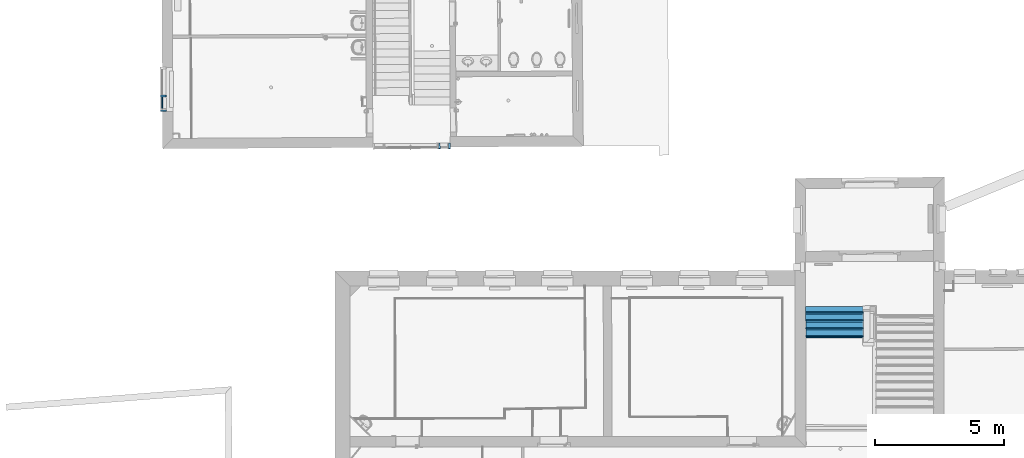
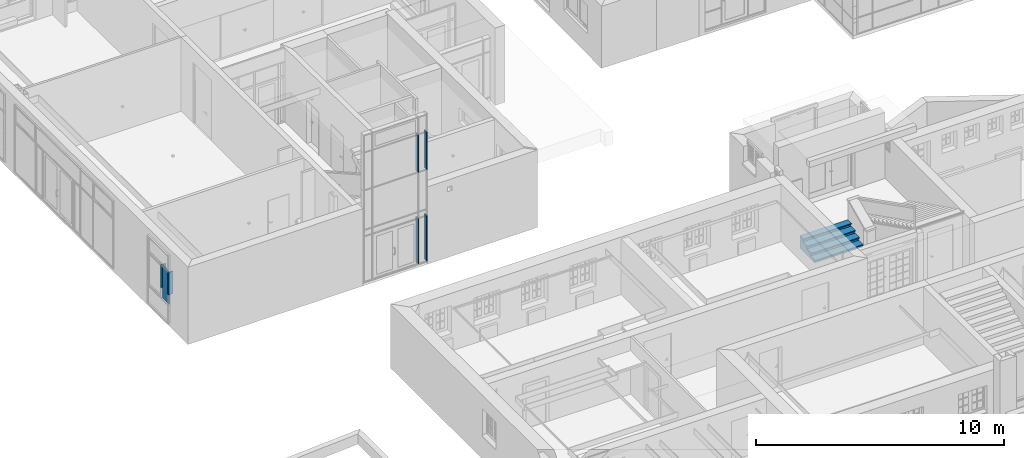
# One storey, part 118 of 196: 18 building element parts, 3 elements without a shape of their own.
"""IFC2X3 building model written with IfcOpenShell, lengths in metres."""

from ifc_helpers import new_model, entity, si_unit, converted_unit, derived_unit, money_unit, direction, frame, origin_with_axes, place, context, subcontext, project, spatial, faceted_brep, material, type_object, element, aggregate, save


model = new_model("IFC2X3")

# Units and contexts
model_context = context("Model", 3, precision=1e-05, world=origin_with_axes(), true_north=direction((0.0, 1.0)))
body_context = subcontext(model_context, "Body", "Model", "MODEL_VIEW")
ifc_project = project(units=[si_unit("LENGTHUNIT", "METRE"), si_unit("AREAUNIT", "SQUARE_METRE"), si_unit("VOLUMEUNIT", "CUBIC_METRE"), converted_unit("PLANEANGLEUNIT", "DEGREE", entity("IfcPlaneAngleMeasure", 0.0174532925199), si_unit("PLANEANGLEUNIT", "RADIAN"), dimensions=[0, 0, 0, 0, 0, 0, 0]), money_unit("EUR"), converted_unit("TIMEUNIT", "Year", entity("IfcTimeMeasure", 31556926.0), si_unit("TIMEUNIT", "SECOND"), dimensions=[0, 0, 1, 0, 0, 0, 0]), si_unit("MASSUNIT", "GRAM", prefix="KILO"), si_unit("THERMODYNAMICTEMPERATUREUNIT", "DEGREE_CELSIUS"), si_unit("LUMINOUSINTENSITYUNIT", "LUMEN"), si_unit("ENERGYUNIT", "JOULE", prefix="MEGA"), derived_unit("THERMALCONDUCTANCEUNIT", [(si_unit("POWERUNIT", "WATT"), 1), (si_unit("LENGTHUNIT", "METRE"), -1), (si_unit("THERMODYNAMICTEMPERATUREUNIT", "KELVIN"), -1)]), derived_unit("SPECIFICHEATCAPACITYUNIT", [(si_unit("ENERGYUNIT", "JOULE"), 1), (si_unit("MASSUNIT", "GRAM", prefix="KILO"), -1), (si_unit("THERMODYNAMICTEMPERATUREUNIT", "KELVIN"), -1)]), derived_unit("MASSDENSITYUNIT", [(si_unit("MASSUNIT", "GRAM", prefix="KILO"), 1), (si_unit("VOLUMEUNIT", "CUBIC_METRE"), -1)])], contexts=[model_context])

# Site, building, storey
site_placement = place(None, origin_with_axes())
site = spatial("IfcSite", under=ifc_project, at=site_placement, Name="Gelände", CompositionType="ELEMENT")
building_placement = place(site_placement, origin_with_axes())
building = spatial("IfcBuilding", under=site, at=building_placement, Name="Gebäude", CompositionType="ELEMENT")
storey_placement = place(building_placement, frame((0.0, 0.0, -3.0), z_axis=(0.0, 0.0, 1.0), x_axis=(1.0, 0.0, 0.0)))
storey = spatial("IfcBuildingStorey", under=building, at=storey_placement, Name="KELLERGESCHOSS", CompositionType="ELEMENT", Elevation=-3.0)

# Proxy, building element parts
building_element_proxy_type = type_object("IfcBuildingElementProxyType", Name="Fassadentyp", PredefinedType="NOTDEFINED")
proxy_1_placement = place(storey_placement, frame((-34.829315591, 32.8962799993, 0.42102562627), z_axis=(0.0, 0.0, 1.0), x_axis=(1.0, 0.0, 0.0)))
proxy_1 = element("IfcBuildingElementProxy", 1, at=proxy_1_placement, inside=storey, type_object=building_element_proxy_type, Name="Fassade-002")
ifc_material_1 = material(Name="45_Glas, Normalglas")
building_element_part_1_placement = place(proxy_1_placement, origin_with_axes())
building_element_part_1 = element("IfcBuildingElementPart", 2, at=building_element_part_1_placement, material=ifc_material_1, Name="45_Glas, Normalglas", context=body_context, shape_type="Brep", body=[
    faceted_brep([(0.0232721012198, -0.570241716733, 2.50999997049), (0.0228500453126, -0.496681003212, 2.50999997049), (-0.0171492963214, -0.496910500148, 2.50999997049), (-0.0167272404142, -0.570471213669, 2.50999997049), (0.0232721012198, -0.570241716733, 1.4199999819), (0.0232721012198, -0.570241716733, 0.92464355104), (0.0228500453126, -0.496681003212, 0.92464355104), (0.0201039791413, -0.0180652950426, 0.92464355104), (0.0201039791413, -0.0180652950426, 1.4199999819), (0.0201039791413, -0.0180652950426, 2.50999997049), (-0.0198953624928, -0.0182947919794, 2.50999997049), (-0.0198953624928, -0.0182947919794, 1.4199999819), (-0.0198953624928, -0.0182947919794, 0.92464355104), (-0.0171492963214, -0.496910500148, 0.92464355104), (-0.0167272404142, -0.570471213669, 0.92464355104), (-0.0167272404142, -0.570471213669, 1.4199999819)], [[[0, 1, 2, 3]], [[0, 4, 5, 6, 7, 8, 9, 1]], [[1, 9, 10, 2]], [[3, 2, 10, 11, 12, 13, 14, 15]], [[4, 0, 3, 15]], [[5, 4, 15, 14]], [[6, 5, 14, 13]], [[7, 6, 13, 12]], [[8, 7, 12, 11]], [[9, 8, 11, 10]]]),
])
ifc_material_2 = material(Name="53_Metall, Aluminium")
building_element_part_2_placement = place(proxy_1_placement, origin_with_axes())
building_element_part_2 = element("IfcBuildingElementPart", 3, at=building_element_part_2_placement, material=ifc_material_2, Name="53_Metall, Aluminium", context=body_context, shape_type="Brep", body=[
    faceted_brep([(0.0132722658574, -0.570299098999, 2.5199999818), (-0.0067274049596, -0.570413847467, 2.5199999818), (-0.0068134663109, -0.555414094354, 2.5199999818), (-0.0668124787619, -0.55575833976, 2.5199999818), (-0.0665256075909, -0.605757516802, 2.5199999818), (0.153470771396, -0.60449528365, 2.5199999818), (0.153183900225, -0.554496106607, 2.5199999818), (0.0131862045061, -0.555299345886, 2.5199999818), (0.0132722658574, -0.570299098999, 1.4199999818), (-0.0067274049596, -0.570413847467, 1.4199999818), (-0.0068134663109, -0.555414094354, 1.4199999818), (-0.0668124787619, -0.55575833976, 1.4199999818), (-0.0665256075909, -0.605757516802, 1.4199999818), (0.153470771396, -0.60449528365, 1.4199999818), (0.153183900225, -0.554496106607, 1.4199999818), (0.0131862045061, -0.555299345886, 1.4199999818)], [[[0, 1, 2, 3, 4, 5, 6, 7]], [[1, 0, 8, 9]], [[10, 2, 1, 9]], [[2, 10, 11, 3]], [[12, 4, 3, 11]], [[13, 5, 4, 12]], [[14, 6, 5, 13]], [[15, 7, 6, 14]], [[0, 7, 15, 8]], [[8, 15, 14, 13, 12, 11, 10, 9]]]),
])
building_element_part_3_placement = place(proxy_1_placement, origin_with_axes())
building_element_part_3 = element("IfcBuildingElementPart", 4, at=building_element_part_3_placement, material=ifc_material_2, Name="53_Metall, Aluminium", context=body_context, shape_type="Brep", body=[
    faceted_brep([(0.0101041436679, -0.0181226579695, 2.5449999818), (0.0101902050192, -0.0331224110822, 2.5449999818), (0.150187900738, -0.0323191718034, 2.5449999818), (0.149901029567, 0.0176800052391, 2.5449999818), (0.00990333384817, 0.0168767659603, 2.5449999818), (0.00998939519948, 0.00187701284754, 2.5449999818), (-0.0100102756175, 0.00176226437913, 2.5449999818), (-0.0100963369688, 0.0167620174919, 2.5449999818), (-0.0700953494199, 0.0164177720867, 2.5449999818), (-0.0698084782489, -0.0335814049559, 2.5449999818), (-0.00980946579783, -0.0332371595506, 2.5449999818), (-0.00989552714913, -0.0182374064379, 2.5449999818), (0.0101041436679, -0.0181226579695, 1.4199999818), (0.0101902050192, -0.0331224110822, 1.4199999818), (0.150187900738, -0.0323191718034, 1.4199999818), (0.149901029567, 0.0176800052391, 1.4199999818), (0.00990333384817, 0.0168767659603, 1.4199999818), (0.00998939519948, 0.00187701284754, 1.4199999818), (-0.0100102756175, 0.00176226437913, 1.4199999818), (-0.0100963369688, 0.0167620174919, 1.4199999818), (-0.0700953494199, 0.0164177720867, 1.4199999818), (-0.0698084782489, -0.0335814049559, 1.4199999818), (-0.00980946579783, -0.0332371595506, 1.4199999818), (-0.00989552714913, -0.0182374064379, 1.4199999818)], [[[0, 1, 2, 3, 4, 5, 6, 7, 8, 9, 10, 11]], [[1, 0, 12, 13]], [[1, 13, 14, 2]], [[3, 2, 14, 15]], [[4, 3, 15, 16]], [[4, 16, 17, 5]], [[5, 17, 18, 6]], [[7, 6, 18, 19]], [[19, 20, 8, 7]], [[9, 8, 20, 21]], [[22, 10, 9, 21]], [[11, 10, 22, 23]], [[0, 11, 23, 12]], [[23, 22, 21, 20, 19, 18, 17, 16, 15, 14, 13, 12]]]),
])
aggregate(proxy_1, [building_element_part_1, building_element_part_2, building_element_part_3])

proxy_2_placement = place(storey_placement, frame((-23.8310150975, 30.9074049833, 0.410855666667), z_axis=(0.0, 0.0, 1.0), x_axis=(1.0, 0.0, 0.0)))
proxy_2 = element("IfcBuildingElementProxy", 5, at=proxy_2_placement, inside=storey, type_object=building_element_proxy_type, Name="Fassade-002")
building_element_part_4_placement = place(proxy_2_placement, origin_with_axes())
building_element_part_4 = element("IfcBuildingElementPart", 6, at=building_element_part_4_placement, material=ifc_material_2, Name="53_Metall, Aluminium", context=body_context, shape_type="Brep", body=[
    faceted_brep([(0.14734139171, 0.010882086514, 2.27812768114), (0.147461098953, -0.0091175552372, 2.27812768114), (0.132461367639, -0.00920733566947, 2.27812768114), (0.132760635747, -0.0592064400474, 2.27812768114), (0.182759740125, -0.0589071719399, 2.27812768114), (0.181502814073, 0.151089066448, 2.27812768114), (0.131503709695, 0.15078979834, 2.27812768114), (0.132341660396, 0.0107923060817, 2.27812768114), (0.14734139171, 0.010882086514, 0.035), (0.147461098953, -0.0091175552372, 0.035), (0.132461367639, -0.00920733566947, 0.05), (0.132760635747, -0.0592064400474, 0.05), (0.182759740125, -0.0589071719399, 0.0), (0.181502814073, 0.151089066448, 0.0), (0.131503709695, 0.15078979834, 0.05), (0.132341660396, 0.0107923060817, 0.05)], [[[0, 1, 2, 3, 4, 5, 6, 7]], [[1, 0, 8, 9]], [[10, 2, 1, 9]], [[2, 10, 11, 3]], [[4, 3, 11, 12]], [[5, 4, 12, 13]], [[6, 5, 13, 14]], [[15, 7, 6, 14]], [[0, 7, 15, 8]], [[8, 15, 14, 13, 12, 11, 10, 9]]]),
])
building_element_part_5_placement = place(proxy_2_placement, origin_with_axes())
building_element_part_5 = element("IfcBuildingElementPart", 7, at=building_element_part_5_placement, material=ifc_material_2, Name="53_Metall, Aluminium", context=body_context, shape_type="Brep", body=[
    faceted_brep([(-0.230786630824, 0.00861881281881, 6.40594888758), (-0.21578689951, 0.00870859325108, 6.40594888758), (-0.216624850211, 0.148706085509, 6.40594888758), (-0.266623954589, 0.148406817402, 6.40594888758), (-0.265786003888, 0.00840932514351, 6.40594888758), (-0.250786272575, 0.00849910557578, 6.40594888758), (-0.250666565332, -0.0115005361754, 6.40594888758), (-0.265666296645, -0.0115903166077, 6.40594888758), (-0.265367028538, -0.0615894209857, 6.40594888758), (-0.21536792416, -0.0612901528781, 6.40594888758), (-0.215667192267, -0.0112910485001, 6.40594888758), (-0.23066692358, -0.0113808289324, 6.40594888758), (-0.230786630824, 0.00861881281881, 4.54226284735), (-0.21578689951, 0.00870859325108, 4.54226284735), (-0.216624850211, 0.148706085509, 4.54226284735), (-0.266623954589, 0.148406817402, 4.54226284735), (-0.265786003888, 0.00840932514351, 4.54226284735), (-0.250786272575, 0.00849910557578, 4.54226284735), (-0.250666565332, -0.0115005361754, 4.54226284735), (-0.265666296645, -0.0115903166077, 4.54226284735), (-0.265367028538, -0.0615894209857, 4.54226284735), (-0.21536792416, -0.0612901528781, 4.54226284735), (-0.215667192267, -0.0112910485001, 4.54226284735), (-0.23066692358, -0.0113808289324, 4.54226284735)], [[[0, 1, 2, 3, 4, 5, 6, 7, 8, 9, 10, 11]], [[1, 0, 12, 13]], [[1, 13, 14, 2]], [[3, 2, 14, 15]], [[4, 3, 15, 16]], [[4, 16, 17, 5]], [[5, 17, 18, 6]], [[7, 6, 18, 19]], [[19, 20, 8, 7]], [[9, 8, 20, 21]], [[22, 10, 9, 21]], [[11, 10, 22, 23]], [[0, 11, 23, 12]], [[23, 22, 21, 20, 19, 18, 17, 16, 15, 14, 13, 12]]]),
])
building_element_part_6_placement = place(proxy_2_placement, origin_with_axes())
building_element_part_6 = element("IfcBuildingElementPart", 8, at=building_element_part_6_placement, material=ifc_material_2, Name="53_Metall, Aluminium", context=body_context, shape_type="Brep", body=[
    faceted_brep([(0.147341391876, 0.010882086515, 6.40594888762), (0.147461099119, -0.00911755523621, 6.40594888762), (0.132461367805, -0.00920733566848, 6.40594888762), (0.132760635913, -0.0592064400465, 6.40594888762), (0.182759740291, -0.0589071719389, 6.40594888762), (0.181502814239, 0.151089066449, 6.40594888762), (0.131503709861, 0.150789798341, 6.40594888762), (0.132341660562, 0.0107923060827, 6.40594888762), (0.147341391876, 0.010882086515, 4.54226284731), (0.147461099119, -0.00911755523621, 4.54226284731), (0.132461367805, -0.00920733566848, 4.54226284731), (0.132760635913, -0.0592064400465, 4.54226284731), (0.182759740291, -0.0589071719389, 4.54226284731), (0.181502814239, 0.151089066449, 4.54226284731), (0.131503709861, 0.150789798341, 4.54226284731), (0.132341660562, 0.0107923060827, 4.54226284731)], [[[0, 1, 2, 3, 4, 5, 6, 7]], [[1, 0, 8, 9]], [[10, 2, 1, 9]], [[2, 10, 11, 3]], [[12, 4, 3, 11]], [[13, 5, 4, 12]], [[14, 6, 5, 13]], [[15, 7, 6, 14]], [[0, 7, 15, 8]], [[8, 15, 14, 13, 12, 11, 10, 9]]]),
])
building_element_part_7_placement = place(proxy_2_placement, origin_with_axes())
building_element_part_7 = element("IfcBuildingElementPart", 9, at=building_element_part_7_placement, material=ifc_material_2, Name="53_Metall, Aluminium", context=body_context, shape_type="Brep", body=[
    faceted_brep([(-0.230786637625, 0.0086188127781, 2.27812768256), (-0.215786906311, 0.00870859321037, 2.27812768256), (-0.216624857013, 0.148706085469, 2.27812768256), (-0.266623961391, 0.148406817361, 2.27812768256), (-0.265786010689, 0.0084093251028, 2.27812768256), (-0.250786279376, 0.00849910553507, 2.27812768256), (-0.250666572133, -0.0115005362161, 2.27812768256), (-0.265666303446, -0.0115903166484, 2.27812768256), (-0.265367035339, -0.0615894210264, 2.27812768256), (-0.215367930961, -0.0612901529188, 2.27812768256), (-0.215667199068, -0.0112910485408, 2.27812768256), (-0.230666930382, -0.0113808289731, 2.27812768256), (-0.230786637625, 0.0086188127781, 0.05), (-0.215786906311, 0.00870859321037, 0.05), (-0.216624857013, 0.148706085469, 0.05), (-0.266623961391, 0.148406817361, 0.05), (-0.265786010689, 0.0084093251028, 0.05), (-0.250786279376, 0.00849910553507, 0.05), (-0.250666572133, -0.0115005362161, 0.05), (-0.265666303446, -0.0115903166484, 0.05), (-0.265367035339, -0.0615894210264, 0.05), (-0.215367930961, -0.0612901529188, 0.05), (-0.215667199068, -0.0112910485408, 0.05), (-0.230666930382, -0.0113808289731, 0.05)], [[[0, 1, 2, 3, 4, 5, 6, 7, 8, 9, 10, 11]], [[1, 0, 12, 13]], [[1, 13, 14, 2]], [[2, 14, 15, 3]], [[4, 3, 15, 16]], [[4, 16, 17, 5]], [[5, 17, 18, 6]], [[7, 6, 18, 19]], [[19, 20, 8, 7]], [[8, 20, 21, 9]], [[22, 10, 9, 21]], [[11, 10, 22, 23]], [[0, 11, 23, 12]], [[23, 22, 21, 20, 19, 18, 17, 16, 15, 14, 13, 12]]]),
])
building_element_part_8_placement = place(proxy_2_placement, origin_with_axes())
building_element_part_8 = element("IfcBuildingElementPart", 10, at=building_element_part_8_placement, material=ifc_material_2, Name="53_Metall, Aluminium", context=body_context, shape_type="Brep", body=[
    faceted_brep([(0.167197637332, 0.0110009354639, 6.40594888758), (0.182197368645, 0.0110907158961, 6.40594888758), (0.181359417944, 0.151088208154, 6.40594888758), (0.131360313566, 0.150788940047, 6.40594888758), (0.132198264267, 0.0107914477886, 6.40594888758), (0.147197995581, 0.0108812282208, 6.40594888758), (0.147317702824, -0.00911841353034, 6.40594888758), (0.13231797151, -0.00920819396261, 6.40594888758), (0.132617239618, -0.0592072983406, 6.40594888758), (0.182616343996, -0.058908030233, 6.40594888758), (0.182317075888, -0.00890892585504, 6.40594888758), (0.167317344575, -0.00899870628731, 6.40594888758), (0.167197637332, 0.0110009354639, 4.54226284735), (0.182197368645, 0.0110907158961, 4.54226284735), (0.181359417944, 0.151088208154, 4.54226284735), (0.131360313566, 0.150788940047, 4.54226284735), (0.132198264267, 0.0107914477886, 4.54226284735), (0.147197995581, 0.0108812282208, 4.54226284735), (0.147317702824, -0.00911841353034, 4.54226284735), (0.13231797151, -0.00920819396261, 4.54226284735), (0.132617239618, -0.0592072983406, 4.54226284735), (0.182616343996, -0.058908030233, 4.54226284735), (0.182317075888, -0.00890892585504, 4.54226284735), (0.167317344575, -0.00899870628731, 4.54226284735)], [[[0, 1, 2, 3, 4, 5, 6, 7, 8, 9, 10, 11]], [[1, 0, 12, 13]], [[1, 13, 14, 2]], [[3, 2, 14, 15]], [[4, 3, 15, 16]], [[4, 16, 17, 5]], [[5, 17, 18, 6]], [[7, 6, 18, 19]], [[19, 20, 8, 7]], [[9, 8, 20, 21]], [[22, 10, 9, 21]], [[11, 10, 22, 23]], [[0, 11, 23, 12]], [[23, 22, 21, 20, 19, 18, 17, 16, 15, 14, 13, 12]]]),
])
building_element_part_9_placement = place(proxy_2_placement, origin_with_axes())
building_element_part_9 = element("IfcBuildingElementPart", 11, at=building_element_part_9_placement, material=ifc_material_2, Name="53_Metall, Aluminium", context=body_context, shape_type="Brep", body=[
    faceted_brep([(0.16719765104, 0.0110009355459, 2.27812768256), (0.182197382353, 0.0110907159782, 2.27812768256), (0.181359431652, 0.151088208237, 2.27812768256), (0.131360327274, 0.150788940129, 2.27812768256), (0.132198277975, 0.0107914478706, 2.27812768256), (0.147198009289, 0.0108812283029, 2.27812768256), (0.147317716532, -0.00911841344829, 2.27812768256), (0.132317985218, -0.00920819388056, 2.27812768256), (0.132617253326, -0.0592072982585, 2.27812768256), (0.182616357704, -0.058908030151, 2.27812768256), (0.182317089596, -0.00890892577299, 2.27812768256), (0.167317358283, -0.00899870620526, 2.27812768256), (0.16719765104, 0.0110009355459, 0.05), (0.182197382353, 0.0110907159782, 0.05), (0.181359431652, 0.151088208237, 0.05), (0.131360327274, 0.150788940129, 0.05), (0.132198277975, 0.0107914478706, 0.05), (0.147198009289, 0.0108812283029, 0.05), (0.147317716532, -0.00911841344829, 0.05), (0.132317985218, -0.00920819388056, 0.05), (0.132617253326, -0.0592072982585, 0.05), (0.182616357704, -0.058908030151, 0.05), (0.182317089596, -0.00890892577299, 0.05), (0.167317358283, -0.00899870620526, 0.05)], [[[0, 1, 2, 3, 4, 5, 6, 7, 8, 9, 10, 11]], [[1, 0, 12, 13]], [[1, 13, 14, 2]], [[2, 14, 15, 3]], [[4, 3, 15, 16]], [[4, 16, 17, 5]], [[5, 17, 18, 6]], [[7, 6, 18, 19]], [[19, 20, 8, 7]], [[8, 20, 21, 9]], [[22, 10, 9, 21]], [[11, 10, 22, 23]], [[0, 11, 23, 12]], [[23, 22, 21, 20, 19, 18, 17, 16, 15, 14, 13, 12]]]),
])
aggregate(proxy_2, [building_element_part_4, building_element_part_5, building_element_part_6, building_element_part_7, building_element_part_8, building_element_part_9])

# Stair, building element parts
stair_placement = place(storey_placement, frame((-9.84187803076, 23.4833679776, -0.0458137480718), z_axis=(0.0, 0.0, 1.0), x_axis=(0.999999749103, -0.000708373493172, 0.0)))
stair = element("IfcStair", 12, at=stair_placement, inside=storey, Name="Treppe-003", ShapeType="NOTDEFINED")
ifc_material_3 = material(Name="05_ALLGEMEIN - TRAGENDE BAUTEILE")
building_element_part_10_placement = place(stair_placement, origin_with_axes())
building_element_part_10 = element("IfcBuildingElementPart", 13, at=building_element_part_10_placement, material=ifc_material_3, Name="05_ALLGEMEIN - TRAGENDE BAUTEILE", context=body_context, shape_type="Brep", body=[
    faceted_brep([(2.23931757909, 0.0919467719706, 0.00581374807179), (2.23931757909, 0.0919467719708, 0.121453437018), (-7.43042358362e-05, 0.0900999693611, 0.121453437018), (-7.22929839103e-05, 0.0900999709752, 0.00581374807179), (2.23684288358, 0.401336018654, 0.121453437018), (2.23021214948, 1.23031793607, 0.00581374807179), (2.23021214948, 1.23031793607, 0.605813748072), (2.23189349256, 1.02011451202, 0.605813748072), (2.23189349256, 1.02011451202, 0.444360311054), (2.23436818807, 0.710725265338, 0.444360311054), (2.23436818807, 0.710725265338, 0.282906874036), (2.23684288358, 0.401336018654, 0.282906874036), (-0.000329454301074, 0.39949104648, 0.121453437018), (-0.000839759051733, 1.01827320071, 0.605813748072), (-0.00101966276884, 1.23756436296, 0.605813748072), (-0.00101966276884, 1.23756436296, 0.00581374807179), (-0.000329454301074, 0.39949104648, 0.282906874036), (-0.000584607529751, 0.708882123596, 0.282906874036), (-0.000584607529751, 0.708882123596, 0.444360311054), (-0.000839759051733, 1.01827320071, 0.444360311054)], [[[0, 1, 2, 3]], [[4, 1, 0, 5, 6, 7, 8, 9, 10, 11]], [[1, 4, 12, 2]], [[13, 14, 15, 3, 2, 12, 16, 17, 18, 19]], [[5, 0, 3, 15]], [[6, 5, 15, 14]], [[7, 6, 14, 13]], [[8, 7, 13, 19]], [[9, 8, 19, 18]], [[10, 9, 18, 17]], [[11, 10, 17, 16]], [[4, 11, 16, 12]]]),
])
building_element_part_11_placement = place(stair_placement, origin_with_axes())
building_element_part_11 = element("IfcBuildingElementPart", 14, at=building_element_part_11_placement, material=ifc_material_3, Name="05_ALLGEMEIN - TRAGENDE BAUTEILE", context=body_context, shape_type="Brep", body=[
    faceted_brep([(2.23963832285, 0.0518470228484, 0.00581374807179), (2.23963832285, 0.0518470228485, 0.121453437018), (-4.12344528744e-05, 0.0499999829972, 0.121453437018), (-4.01119971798e-05, 0.049999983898, 0.00581374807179), (2.23931837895, 0.0918467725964, 0.121453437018), (2.23931837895, 0.0918467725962, 0.00581374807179), (-7.42220151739e-05, 0.089999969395, 0.121453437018), (-7.22127320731e-05, 0.0899999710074, 0.00581374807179)], [[[0, 1, 2, 3]], [[4, 1, 0, 5]], [[1, 4, 6, 2]], [[6, 7, 3, 2]], [[5, 0, 3, 7]], [[4, 5, 7, 6]]]),
])
building_element_part_12_placement = place(stair_placement, origin_with_axes())
building_element_part_12 = element("IfcBuildingElementPart", 15, at=building_element_part_12_placement, material=ifc_material_3, Name="05_ALLGEMEIN - TRAGENDE BAUTEILE", context=body_context, shape_type="Brep", body=[
    faceted_brep([(2.23716362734, 0.361236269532, 0.161453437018), (2.23716362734, 0.361236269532, 0.282906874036), (-0.000296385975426, 0.359391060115, 0.282906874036), (-0.000296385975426, 0.359391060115, 0.161453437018), (2.23684368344, 0.40123601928, 0.282906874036), (2.23684368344, 0.40123601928, 0.161453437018), (-0.000329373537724, 0.399391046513, 0.282906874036), (-0.000329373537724, 0.399391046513, 0.161453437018)], [[[0, 1, 2, 3]], [[4, 1, 0, 5]], [[1, 4, 6, 2]], [[3, 2, 6, 7]], [[5, 0, 3, 7]], [[4, 5, 7, 6]]]),
])
building_element_part_13_placement = place(stair_placement, origin_with_axes())
building_element_part_13 = element("IfcBuildingElementPart", 16, at=building_element_part_13_placement, material=ifc_material_3, Name="05_ALLGEMEIN - TRAGENDE BAUTEILE", context=body_context, shape_type="Brep", body=[
    faceted_brep([(2.23468893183, 0.670625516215, 0.322906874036), (2.23468893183, 0.670625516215, 0.444360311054), (-0.000551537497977, 0.668782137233, 0.444360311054), (-0.000551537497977, 0.668782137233, 0.322906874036), (2.23436898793, 0.710625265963, 0.444360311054), (2.23436898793, 0.710625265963, 0.322906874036), (-0.000584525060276, 0.70878212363, 0.444360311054), (-0.000584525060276, 0.70878212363, 0.322906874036)], [[[0, 1, 2, 3]], [[4, 1, 0, 5]], [[1, 4, 6, 2]], [[3, 2, 6, 7]], [[5, 0, 3, 7]], [[4, 5, 7, 6]]]),
])
building_element_part_14_placement = place(stair_placement, origin_with_axes())
building_element_part_14 = element("IfcBuildingElementPart", 17, at=building_element_part_14_placement, material=ifc_material_3, Name="05_ALLGEMEIN - TRAGENDE BAUTEILE", context=body_context, shape_type="Brep", body=[
    faceted_brep([(2.23221423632, 0.980014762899, 0.484360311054), (2.23221423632, 0.980014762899, 0.605813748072), (-0.000806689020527, 0.97817321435, 0.605813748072), (-0.000806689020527, 0.97817321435, 0.484360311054), (2.23189429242, 1.02001451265, 0.605813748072), (2.23189429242, 1.02001451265, 0.484360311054), (-0.000839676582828, 1.01817320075, 0.605813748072), (-0.000839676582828, 1.01817320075, 0.484360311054)], [[[0, 1, 2, 3]], [[4, 1, 0, 5]], [[1, 4, 6, 2]], [[7, 3, 2, 6]], [[5, 0, 3, 7]], [[4, 5, 7, 6]]]),
])
building_element_part_15_placement = place(stair_placement, origin_with_axes())
building_element_part_15 = element("IfcBuildingElementPart", 18, at=building_element_part_15_placement, material=ifc_material_3, Name="05_ALLGEMEIN - TRAGENDE BAUTEILE", context=body_context, shape_type="Brep", body=[
    faceted_brep([(2.24003825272, 0.00184733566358, 0.121453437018), (2.24003825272, 0.00184733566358, 0.161453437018), (0.0, 0.0, 0.161453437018), (0.0, 0.0, 0.121453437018), (2.23684368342, 0.401236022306, 0.161453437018), (2.23684368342, 0.401236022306, 0.121453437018), (-0.000329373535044, 0.399391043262, 0.161453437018), (-0.000329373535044, 0.399391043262, 0.121453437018)], [[[0, 1, 2, 3]], [[4, 1, 0, 5]], [[1, 4, 6, 2]], [[6, 7, 3, 2]], [[5, 0, 3, 7]], [[4, 5, 7, 6]]]),
])
building_element_part_16_placement = place(stair_placement, origin_with_axes())
building_element_part_16 = element("IfcBuildingElementPart", 19, at=building_element_part_16_placement, material=ifc_material_3, Name="05_ALLGEMEIN - TRAGENDE BAUTEILE", context=body_context, shape_type="Brep", body=[
    faceted_brep([(2.23756355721, 0.311236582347, 0.282906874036), (2.23756355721, 0.311236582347, 0.322906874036), (-0.00025515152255, 0.309391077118, 0.322906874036), (-0.00025515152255, 0.309391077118, 0.282906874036), (2.23436898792, 0.710625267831, 0.322906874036), (2.23436898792, 0.710625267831, 0.282906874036), (-0.000584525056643, 0.708782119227, 0.322906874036), (-0.000584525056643, 0.708782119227, 0.282906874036)], [[[0, 1, 2, 3]], [[4, 1, 0, 5]], [[1, 4, 6, 2]], [[6, 7, 3, 2]], [[5, 0, 3, 7]], [[4, 5, 7, 6]]]),
])
building_element_part_17_placement = place(stair_placement, origin_with_axes())
building_element_part_17 = element("IfcBuildingElementPart", 20, at=building_element_part_17_placement, material=ifc_material_3, Name="05_ALLGEMEIN - TRAGENDE BAUTEILE", context=body_context, shape_type="Brep", body=[
    faceted_brep([(2.2350888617, 0.62062582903, 0.444360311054), (2.2350888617, 0.62062582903, 0.484360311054), (-0.000510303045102, 0.618782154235, 0.484360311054), (-0.000510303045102, 0.618782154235, 0.444360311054), (2.2318942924, 1.02001451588, 0.484360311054), (2.2318942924, 1.02001451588, 0.444360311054), (-0.000839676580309, 1.01817319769, 0.484360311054), (-0.000839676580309, 1.01817319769, 0.444360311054)], [[[0, 1, 2, 3]], [[4, 1, 0, 5]], [[1, 4, 6, 2]], [[2, 6, 7, 3]], [[5, 0, 3, 7]], [[4, 5, 7, 6]]]),
])
building_element_part_18_placement = place(stair_placement, origin_with_axes())
building_element_part_18 = element("IfcBuildingElementPart", 21, at=building_element_part_18_placement, material=ifc_material_3, Name="05_ALLGEMEIN - TRAGENDE BAUTEILE", context=body_context, shape_type="Brep", body=[
    faceted_brep([(2.23261416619, 0.930015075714, 0.605813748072), (2.23261416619, 0.930015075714, 0.645813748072), (-0.000765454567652, 0.928173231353, 0.645813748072), (-0.000765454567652, 0.928173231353, 0.605813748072), (2.23021214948, 1.23031793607, 0.645813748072), (2.23021214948, 1.23031793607, 0.605813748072), (-0.00101966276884, 1.23756436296, 0.645813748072), (-0.00101966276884, 1.23756436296, 0.605813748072)], [[[0, 1, 2, 3]], [[4, 1, 0, 5]], [[1, 4, 6, 2]], [[2, 6, 7, 3]], [[5, 0, 3, 7]], [[4, 5, 7, 6]]]),
])
aggregate(stair, [building_element_part_10, building_element_part_11, building_element_part_12, building_element_part_13, building_element_part_14, building_element_part_15, building_element_part_16, building_element_part_17, building_element_part_18])

save(model, "model.ifc")
